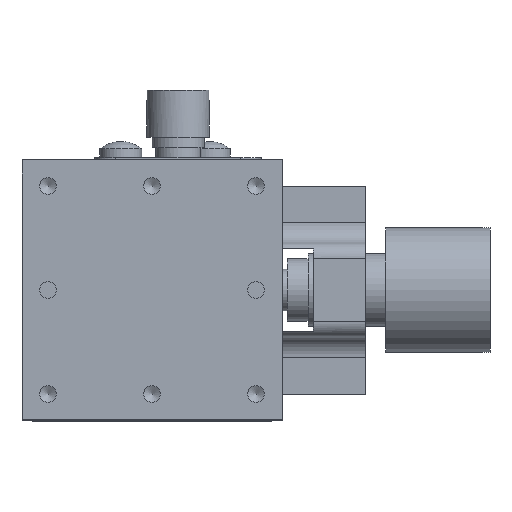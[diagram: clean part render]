
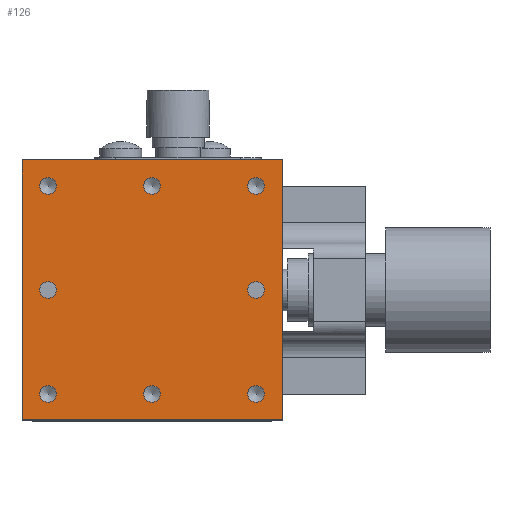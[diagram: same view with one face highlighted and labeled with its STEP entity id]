
A CAD part, top view. The second image highlights one B-rep face of the part: STEP entity #126.
In plain terms, the highlighted planar face has unit normal (0, 0, 1).
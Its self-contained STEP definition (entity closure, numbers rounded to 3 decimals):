
#126 = ADVANCED_FACE( '', ( #290, #291, #292, #293, #294, #295, #296, #297, #298 ), #299, .T. );
#290 = FACE_BOUND( '', #716, .T. );
#291 = FACE_BOUND( '', #717, .T. );
#292 = FACE_BOUND( '', #718, .T. );
#293 = FACE_BOUND( '', #719, .T. );
#294 = FACE_BOUND( '', #720, .T. );
#295 = FACE_BOUND( '', #721, .T. );
#296 = FACE_BOUND( '', #722, .T. );
#297 = FACE_BOUND( '', #723, .T. );
#298 = FACE_OUTER_BOUND( '', #724, .T. );
#299 = PLANE( '', #725 );
#716 = EDGE_LOOP( '', ( #1169 ) );
#717 = EDGE_LOOP( '', ( #1170 ) );
#718 = EDGE_LOOP( '', ( #1171 ) );
#719 = EDGE_LOOP( '', ( #1172 ) );
#720 = EDGE_LOOP( '', ( #1173 ) );
#721 = EDGE_LOOP( '', ( #1174 ) );
#722 = EDGE_LOOP( '', ( #1175 ) );
#723 = EDGE_LOOP( '', ( #1176 ) );
#724 = EDGE_LOOP( '', ( #1177, #1178, #1179, #1180 ) );
#725 = AXIS2_PLACEMENT_3D( '', #1181, #1182, #1183 );
#1169 = ORIENTED_EDGE( '', *, *, #2362, .T. );
#1170 = ORIENTED_EDGE( '', *, *, #2363, .T. );
#1171 = ORIENTED_EDGE( '', *, *, #2364, .T. );
#1172 = ORIENTED_EDGE( '', *, *, #2365, .T. );
#1173 = ORIENTED_EDGE( '', *, *, #2366, .T. );
#1174 = ORIENTED_EDGE( '', *, *, #2367, .T. );
#1175 = ORIENTED_EDGE( '', *, *, #2368, .T. );
#1176 = ORIENTED_EDGE( '', *, *, #2369, .T. );
#1177 = ORIENTED_EDGE( '', *, *, #2370, .F. );
#1178 = ORIENTED_EDGE( '', *, *, #2371, .F. );
#1179 = ORIENTED_EDGE( '', *, *, #2372, .F. );
#1180 = ORIENTED_EDGE( '', *, *, #2356, .F. );
#1181 = CARTESIAN_POINT( '', ( 0., 0., 15. ) );
#1182 = DIRECTION( '', ( 0., 0., 1. ) );
#1183 = DIRECTION( '', ( 1., 0., 0. ) );
#2356 = EDGE_CURVE( '', #2749, #2751, #2752, .T. );
#2362 = EDGE_CURVE( '', #2762, #2762, #2763, .T. );
#2363 = EDGE_CURVE( '', #2764, #2764, #2765, .T. );
#2364 = EDGE_CURVE( '', #2766, #2766, #2767, .T. );
#2365 = EDGE_CURVE( '', #2768, #2768, #2769, .T. );
#2366 = EDGE_CURVE( '', #2770, #2770, #2771, .T. );
#2367 = EDGE_CURVE( '', #2772, #2772, #2773, .T. );
#2368 = EDGE_CURVE( '', #2774, #2774, #2775, .T. );
#2369 = EDGE_CURVE( '', #2776, #2776, #2777, .T. );
#2370 = EDGE_CURVE( '', #2778, #2749, #2779, .T. );
#2371 = EDGE_CURVE( '', #2780, #2778, #2781, .T. );
#2372 = EDGE_CURVE( '', #2751, #2780, #2782, .T. );
#2749 = VERTEX_POINT( '', #3352 );
#2751 = VERTEX_POINT( '', #3355 );
#2752 = LINE( '', #3356, #3357 );
#2762 = VERTEX_POINT( '', #3372 );
#2763 = CIRCLE( '', #3373, 0.8 );
#2764 = VERTEX_POINT( '', #3374 );
#2765 = CIRCLE( '', #3375, 0.8 );
#2766 = VERTEX_POINT( '', #3376 );
#2767 = CIRCLE( '', #3377, 0.8 );
#2768 = VERTEX_POINT( '', #3378 );
#2769 = CIRCLE( '', #3379, 0.8 );
#2770 = VERTEX_POINT( '', #3380 );
#2771 = CIRCLE( '', #3381, 0.8 );
#2772 = VERTEX_POINT( '', #3382 );
#2773 = CIRCLE( '', #3383, 0.8 );
#2774 = VERTEX_POINT( '', #3384 );
#2775 = CIRCLE( '', #3385, 0.8 );
#2776 = VERTEX_POINT( '', #3386 );
#2777 = CIRCLE( '', #3387, 0.8 );
#2778 = VERTEX_POINT( '', #3388 );
#2779 = LINE( '', #3389, #3390 );
#2780 = VERTEX_POINT( '', #3391 );
#2781 = LINE( '', #3392, #3393 );
#2782 = LINE( '', #3394, #3395 );
#3352 = CARTESIAN_POINT( '', ( -12.5, -12.5, 15. ) );
#3355 = CARTESIAN_POINT( '', ( -12.5, 12.5, 15. ) );
#3356 = CARTESIAN_POINT( '', ( -12.5, 0., 15. ) );
#3357 = VECTOR( '', #4398, 1000. );
#3372 = CARTESIAN_POINT( '', ( -10., -0.8, 15. ) );
#3373 = AXIS2_PLACEMENT_3D( '', #4404, #4405, #4406 );
#3374 = CARTESIAN_POINT( '', ( -10., 9.2, 15. ) );
#3375 = AXIS2_PLACEMENT_3D( '', #4407, #4408, #4409 );
#3376 = CARTESIAN_POINT( '', ( 0., 9.2, 15. ) );
#3377 = AXIS2_PLACEMENT_3D( '', #4410, #4411, #4412 );
#3378 = CARTESIAN_POINT( '', ( 10., 9.2, 15. ) );
#3379 = AXIS2_PLACEMENT_3D( '', #4413, #4414, #4415 );
#3380 = CARTESIAN_POINT( '', ( 10., -0.8, 15. ) );
#3381 = AXIS2_PLACEMENT_3D( '', #4416, #4417, #4418 );
#3382 = CARTESIAN_POINT( '', ( 10., -10.8, 15. ) );
#3383 = AXIS2_PLACEMENT_3D( '', #4419, #4420, #4421 );
#3384 = CARTESIAN_POINT( '', ( 0., -10.8, 15. ) );
#3385 = AXIS2_PLACEMENT_3D( '', #4422, #4423, #4424 );
#3386 = CARTESIAN_POINT( '', ( -10., -10.8, 15. ) );
#3387 = AXIS2_PLACEMENT_3D( '', #4425, #4426, #4427 );
#3388 = CARTESIAN_POINT( '', ( 12.5, -12.5, 15. ) );
#3389 = CARTESIAN_POINT( '', ( 0., -12.5, 15. ) );
#3390 = VECTOR( '', #4428, 1000. );
#3391 = CARTESIAN_POINT( '', ( 12.5, 12.5, 15. ) );
#3392 = CARTESIAN_POINT( '', ( 12.5, 0., 15. ) );
#3393 = VECTOR( '', #4429, 1000. );
#3394 = CARTESIAN_POINT( '', ( 0., 12.5, 15. ) );
#3395 = VECTOR( '', #4430, 1000. );
#4398 = DIRECTION( '', ( 0., 1., 0. ) );
#4404 = CARTESIAN_POINT( '', ( -10., 0., 15. ) );
#4405 = DIRECTION( '', ( 0., 0., -1. ) );
#4406 = DIRECTION( '', ( 0., -1., 0. ) );
#4407 = CARTESIAN_POINT( '', ( -10., 10., 15. ) );
#4408 = DIRECTION( '', ( 0., 0., -1. ) );
#4409 = DIRECTION( '', ( 0., -1., 0. ) );
#4410 = CARTESIAN_POINT( '', ( 0., 10., 15. ) );
#4411 = DIRECTION( '', ( 0., 0., -1. ) );
#4412 = DIRECTION( '', ( 0., -1., 0. ) );
#4413 = CARTESIAN_POINT( '', ( 10., 10., 15. ) );
#4414 = DIRECTION( '', ( 0., 0., -1. ) );
#4415 = DIRECTION( '', ( 0., -1., 0. ) );
#4416 = CARTESIAN_POINT( '', ( 10., 0., 15. ) );
#4417 = DIRECTION( '', ( 0., 0., -1. ) );
#4418 = DIRECTION( '', ( 0., -1., 0. ) );
#4419 = CARTESIAN_POINT( '', ( 10., -10., 15. ) );
#4420 = DIRECTION( '', ( 0., 0., -1. ) );
#4421 = DIRECTION( '', ( 0., -1., 0. ) );
#4422 = CARTESIAN_POINT( '', ( 0., -10., 15. ) );
#4423 = DIRECTION( '', ( 0., 0., -1. ) );
#4424 = DIRECTION( '', ( 0., -1., 0. ) );
#4425 = CARTESIAN_POINT( '', ( -10., -10., 15. ) );
#4426 = DIRECTION( '', ( 0., 0., -1. ) );
#4427 = DIRECTION( '', ( 0., -1., 0. ) );
#4428 = DIRECTION( '', ( -1., 0., 0. ) );
#4429 = DIRECTION( '', ( 0., -1., 0. ) );
#4430 = DIRECTION( '', ( 1., 0., 0. ) );
